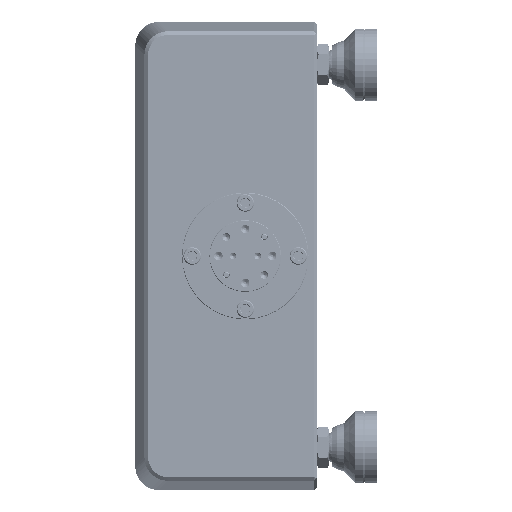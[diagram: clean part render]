
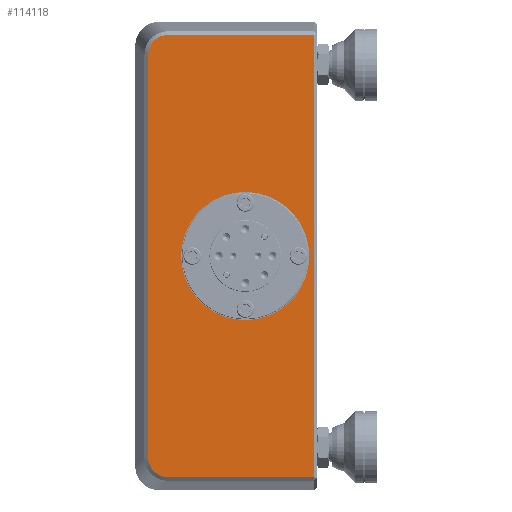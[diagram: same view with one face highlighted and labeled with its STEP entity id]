
A CAD part, left-side view. The second image highlights one B-rep face of the part: STEP entity #114118.
In plain terms, the highlighted planar face has unit normal (-1, 0, 0).
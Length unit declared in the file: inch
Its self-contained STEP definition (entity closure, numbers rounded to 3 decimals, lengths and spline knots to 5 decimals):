
#1469 = DIRECTION ( 'NONE',  ( -1., 0., 0. ) ) ;
#3865 = EDGE_CURVE ( 'NONE', #221936, #86774, #214078, .T. ) ;
#10014 = CARTESIAN_POINT ( 'NONE',  ( -2.75, 3.34947, 2.28609 ) ) ;
#14836 = ORIENTED_EDGE ( 'NONE', *, *, #138453, .T. ) ;
#22429 = EDGE_CURVE ( 'NONE', #53856, #121508, #218860, .T. ) ;
#24040 = CIRCLE ( 'NONE', #234977, 0.67 ) ;
#26270 = LINE ( 'NONE', #61036, #93372 ) ;
#26890 = CARTESIAN_POINT ( 'NONE',  ( -2.75, 3.2715, 2.31233 ) ) ;
#27225 = VERTEX_POINT ( 'NONE', #201167 ) ;
#29889 = FACE_BOUND ( 'NONE', #204807, .T. ) ;
#31477 = ORIENTED_EDGE ( 'NONE', *, *, #117652, .F. ) ;
#32569 = ORIENTED_EDGE ( 'NONE', *, *, #3865, .T. ) ;
#40687 = DIRECTION ( 'NONE',  ( 0., 1., 0. ) ) ;
#42572 = CARTESIAN_POINT ( 'NONE',  ( -2.75, 3.299, -2.30689 ) ) ;
#47413 = CARTESIAN_POINT ( 'NONE',  ( -2.75, 1.71786, 2.31232 ) ) ;
#48315 = CARTESIAN_POINT ( 'NONE',  ( -2.75, 3.45293, 2.1034 ) ) ;
#49507 = CARTESIAN_POINT ( 'NONE',  ( -2.75, 3.45294, 2.13095 ) ) ;
#50461 = EDGE_CURVE ( 'NONE', #189540, #221936, #134081, .T. ) ;
#53856 = VERTEX_POINT ( 'NONE', #144276 ) ;
#54258 = DIRECTION ( 'NONE',  ( 0., 0., 1. ) ) ;
#55429 = CARTESIAN_POINT ( 'NONE',  ( -2.75, 2.43786, 0. ) ) ;
#58144 = CARTESIAN_POINT ( 'NONE',  ( -2.75, 3.27156, -2.31233 ) ) ;
#61036 = CARTESIAN_POINT ( 'NONE',  ( -2.75, 2.63786, 2.31232 ) ) ;
#62053 = VECTOR ( 'NONE', #189311, 39.37008 ) ;
#64897 = EDGE_CURVE ( 'NONE', #121508, #226541, #26270, .T. ) ;
#65206 = CARTESIAN_POINT ( 'NONE',  ( -2.75, 3.24401, 2.31232 ) ) ;
#69480 = CIRCLE ( 'NONE', #188562, 0.67 ) ;
#74634 = DIRECTION ( 'NONE',  ( 0., 0., 1. ) ) ;
#76054 = EDGE_LOOP ( 'NONE', ( #32569, #14836, #194947, #85748, #96509, #206538 ) ) ;
#76182 = CARTESIAN_POINT ( 'NONE',  ( -2.75, 3.4267, -2.20886 ) ) ;
#82977 = DIRECTION ( 'NONE',  ( 0., 0., 1. ) ) ;
#84194 = CARTESIAN_POINT ( 'NONE',  ( -2.75, 2.43786, 0. ) ) ;
#85748 = ORIENTED_EDGE ( 'NONE', *, *, #64897, .T. ) ;
#86211 = VECTOR ( 'NONE', #54258, 39.37008 ) ;
#86774 = VERTEX_POINT ( 'NONE', #127477 ) ;
#92984 = CARTESIAN_POINT ( 'NONE',  ( -2.75, 3.45294, -2.13089 ) ) ;
#93372 = VECTOR ( 'NONE', #40687, 39.37008 ) ;
#96509 = ORIENTED_EDGE ( 'NONE', *, *, #115562, .T. ) ;
#98736 = LINE ( 'NONE', #134835, #132126 ) ;
#100039 = CARTESIAN_POINT ( 'NONE',  ( -2.75, 3.4267, 2.20886 ) ) ;
#101189 = CARTESIAN_POINT ( 'NONE',  ( -2.75, 3.4475, 2.15839 ) ) ;
#114118 = ADVANCED_FACE ( 'NONE', ( #211219, #29889 ), #171732, .F. ) ;
#115562 = EDGE_CURVE ( 'NONE', #226541, #189540, #169863, .T. ) ;
#115818 = CARTESIAN_POINT ( 'NONE',  ( -2.75, 3.24401, -2.31232 ) ) ;
#116016 = CARTESIAN_POINT ( 'NONE',  ( -2.75, 3.45293, 0. ) ) ;
#117652 = EDGE_CURVE ( 'NONE', #204026, #27225, #24040, .T. ) ;
#121508 = VERTEX_POINT ( 'NONE', #47413 ) ;
#127477 = CARTESIAN_POINT ( 'NONE',  ( -2.75, 3.24401, -2.31232 ) ) ;
#132126 = VECTOR ( 'NONE', #173324, 39.37008 ) ;
#133905 = CARTESIAN_POINT ( 'NONE',  ( -2.75, 2.43786, -0.67 ) ) ;
#134081 = LINE ( 'NONE', #116016, #62053 ) ;
#134835 = CARTESIAN_POINT ( 'NONE',  ( -2.75, 2.63786, -2.31232 ) ) ;
#136474 = EDGE_CURVE ( 'NONE', #27225, #204026, #69480, .T. ) ;
#138453 = EDGE_CURVE ( 'NONE', #86774, #53856, #98736, .T. ) ;
#139490 = DIRECTION ( 'NONE',  ( -1., 0., 0. ) ) ;
#144276 = CARTESIAN_POINT ( 'NONE',  ( -2.75, 1.71786, -2.31232 ) ) ;
#148376 = CARTESIAN_POINT ( 'NONE',  ( -2.75, 3.4475, -2.15839 ) ) ;
#149566 = CARTESIAN_POINT ( 'NONE',  ( -2.75, 3.41121, -2.2321 ) ) ;
#153154 = CARTESIAN_POINT ( 'NONE',  ( -2.75, 3.37271, -2.27061 ) ) ;
#158399 = ORIENTED_EDGE ( 'NONE', *, *, #136474, .F. ) ;
#158403 = DIRECTION ( 'NONE',  ( 0., 0., -1. ) ) ;
#158943 = CARTESIAN_POINT ( 'NONE',  ( -2.75, 3.299, 2.30689 ) ) ;
#169188 = CARTESIAN_POINT ( 'NONE',  ( -2.75, 3.24401, 2.31232 ) ) ;
#169863 = B_SPLINE_CURVE_WITH_KNOTS ( 'NONE', 3,
 ( #65206, #26890, #158943, #10014, #172276, #192566, #100039, #101189, #49507, #48315 ),
 .UNSPECIFIED., .F., .F.,
 ( 4, 2, 2, 2, 4 ),
 ( 0., 0.25, 0.5, 0.75, 1. ),
 .UNSPECIFIED. ) ;
#171732 = PLANE ( 'NONE',  #224942 ) ;
#172276 = CARTESIAN_POINT ( 'NONE',  ( -2.75, 3.37271, 2.2706 ) ) ;
#173324 = DIRECTION ( 'NONE',  ( 0., -1., 0. ) ) ;
#187955 = CARTESIAN_POINT ( 'NONE',  ( -2.75, 3.45293, -2.1034 ) ) ;
#188562 = AXIS2_PLACEMENT_3D ( 'NONE', #84194, #139490, #82977 ) ;
#189311 = DIRECTION ( 'NONE',  ( 0., 0., -1. ) ) ;
#189540 = VERTEX_POINT ( 'NONE', #194457 ) ;
#190884 = CARTESIAN_POINT ( 'NONE',  ( -2.75, 2.63786, 0. ) ) ;
#192566 = CARTESIAN_POINT ( 'NONE',  ( -2.75, 3.41122, 2.2321 ) ) ;
#194457 = CARTESIAN_POINT ( 'NONE',  ( -2.75, 3.45293, 2.1034 ) ) ;
#194947 = ORIENTED_EDGE ( 'NONE', *, *, #22429, .T. ) ;
#199709 = CARTESIAN_POINT ( 'NONE',  ( -2.75, 1.71786, 0. ) ) ;
#201167 = CARTESIAN_POINT ( 'NONE',  ( -2.75, 2.43786, 0.67 ) ) ;
#204026 = VERTEX_POINT ( 'NONE', #133905 ) ;
#204807 = EDGE_LOOP ( 'NONE', ( #158399, #31477 ) ) ;
#206538 = ORIENTED_EDGE ( 'NONE', *, *, #50461, .T. ) ;
#211219 = FACE_OUTER_BOUND ( 'NONE', #76054, .T. ) ;
#212396 = DIRECTION ( 'NONE',  ( 1., 0., 0. ) ) ;
#214078 = B_SPLINE_CURVE_WITH_KNOTS ( 'NONE', 3,
 ( #187955, #92984, #148376, #76182, #149566, #153154, #222761, #42572, #58144, #115818 ),
 .UNSPECIFIED., .F., .F.,
 ( 4, 2, 2, 2, 4 ),
 ( 0., 0.25, 0.5, 0.75, 1. ),
 .UNSPECIFIED. ) ;
#218860 = LINE ( 'NONE', #199709, #86211 ) ;
#221936 = VERTEX_POINT ( 'NONE', #228636 ) ;
#222761 = CARTESIAN_POINT ( 'NONE',  ( -2.75, 3.34947, -2.28609 ) ) ;
#224942 = AXIS2_PLACEMENT_3D ( 'NONE', #190884, #212396, #158403 ) ;
#226541 = VERTEX_POINT ( 'NONE', #169188 ) ;
#228636 = CARTESIAN_POINT ( 'NONE',  ( -2.75, 3.45293, -2.1034 ) ) ;
#234977 = AXIS2_PLACEMENT_3D ( 'NONE', #55429, #1469, #74634 ) ;
